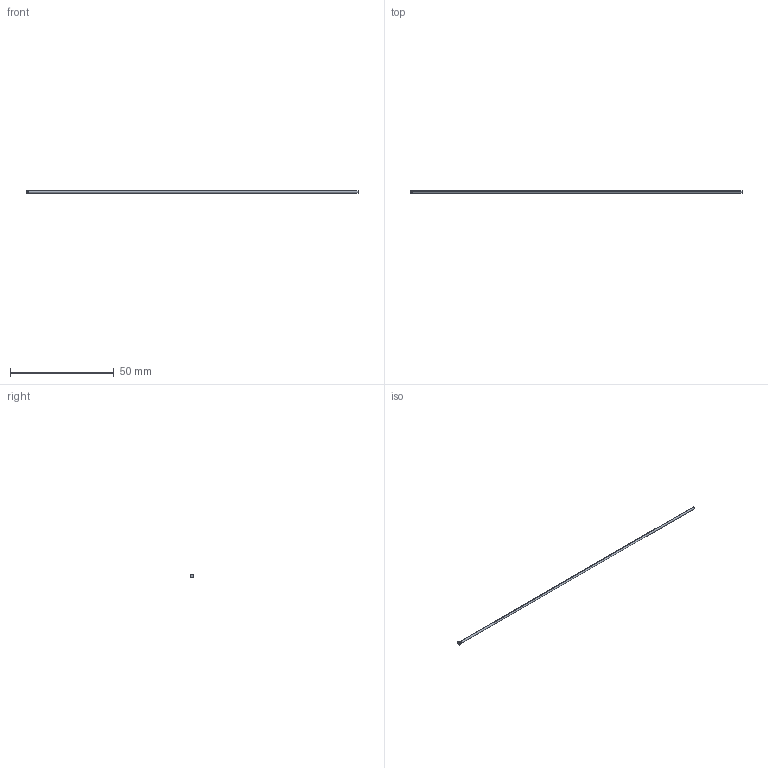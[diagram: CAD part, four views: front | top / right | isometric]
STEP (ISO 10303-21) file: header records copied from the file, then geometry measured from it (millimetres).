
FILE_DESCRIPTION (( 'STEP AP214' ), '1' );
FILE_NAME ('D-1,1x160.STEP', '2020-06-08T09:13:54', ( 'August' ), ( '' ), 'SwSTEP 2.0', 'SolidWorks 2018', '' );
FILE_SCHEMA (( 'AUTOMOTIVE_DESIGN' ));
Length unit declared in the file: millimetre
Products named in the file (1): D-1,1x160
Bounding box: 160 x 1.8 x 1.8 mm (x, y, z)
Volume: 153.3 mm3; surface area: 558.6 mm2
Topology: 1 solids, 1 shells, 10 faces, 18 edges, 10 vertices
Faces by surface type: cylinder 4, torus 2, cone 2, plane 2
Entity records: 280 total; most frequent: DIRECTION 52, CARTESIAN_POINT 39, ORIENTED_EDGE 36, AXIS2_PLACEMENT_3D 23, EDGE_CURVE 18, CIRCLE 12, ADVANCED_FACE 10, VERTEX_POINT 10
